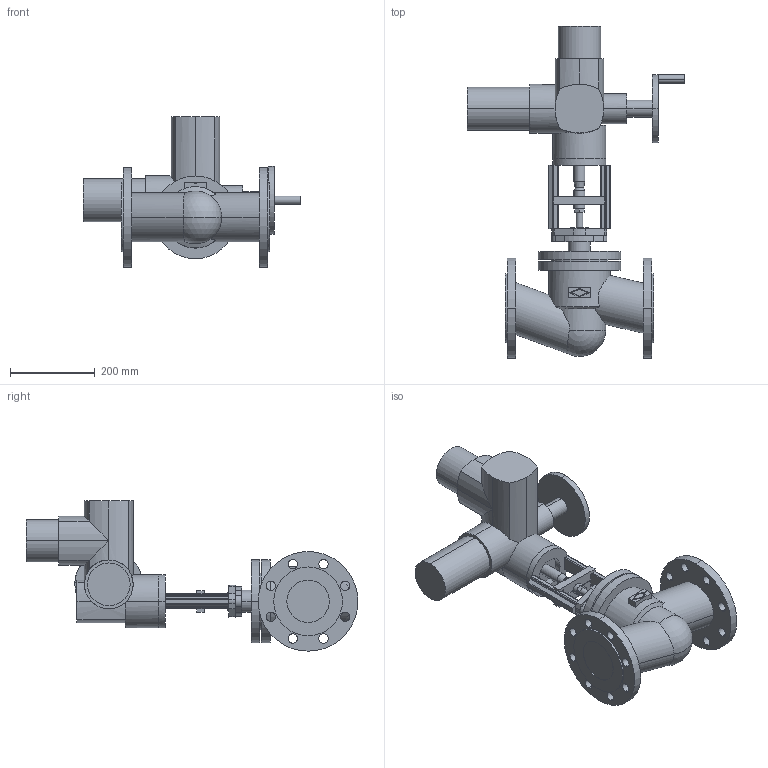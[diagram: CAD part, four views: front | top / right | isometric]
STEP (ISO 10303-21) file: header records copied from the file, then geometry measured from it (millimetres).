
FILE_DESCRIPTION(('OneSpaceDesigner STEP Export'),'2;1');
FILE_NAME('c000003105.stp','2007-01-09T11:42:28',(''),(''),'OneSpace Designer STEP processor for AP214 (Solid Model)','OneSpace Designer 14.00B 27-May-2006 (C) CoCreate Software GmbH','');
FILE_SCHEMA(('AUTOMOTIVE_DESIGN { 1 0 10303 214 1 1 1 1 }'));
Length unit declared in the file: millimetre
Products named in the file (3): 1; 2; 3
Bounding box: 514 x 782.5 x 354.5 mm (x, y, z)
Volume: 16407023.9 mm3; surface area: 925680 mm2
Topology: 3 solids, 3 shells, 269 faces, 689 edges, 440 vertices
Faces by surface type: cylinder 144, plane 117, cone 6, sphere 2
Entity records: 7988 total; most frequent: CARTESIAN_POINT 1858, ORIENTED_EDGE 1374, DIRECTION 1121, EDGE_CURVE 687, VERTEX_POINT 440, AXIS2_PLACEMENT_3D 380, VECTOR 361, LINE 361
